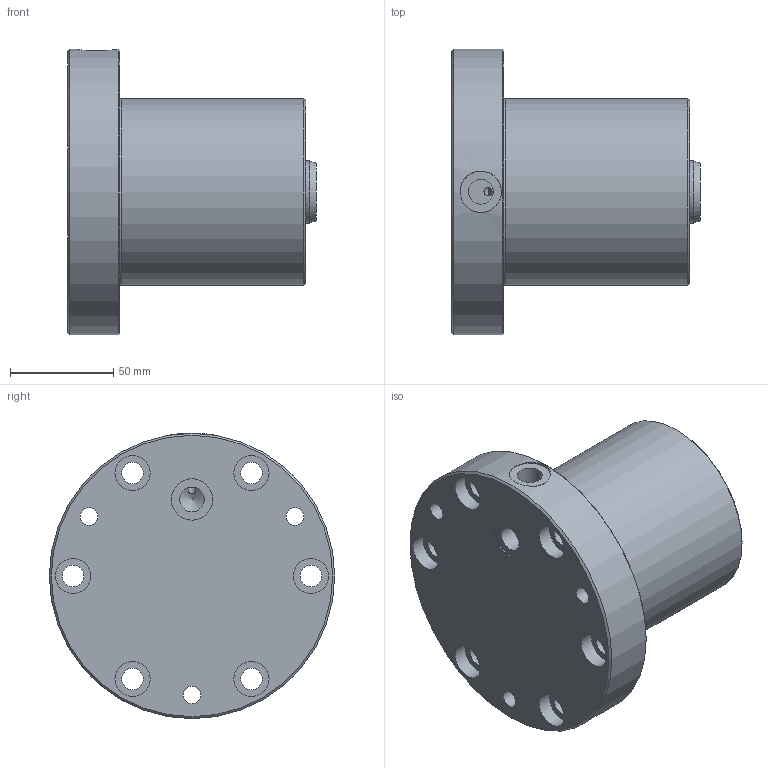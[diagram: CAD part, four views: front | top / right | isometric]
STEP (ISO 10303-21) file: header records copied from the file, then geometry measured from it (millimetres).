
FILE_DESCRIPTION( ( 'Unknown' ), '1' );
FILE_NAME( 'F:/JAKOB-STEP+IGES-Dateien/STEP-Dateien/ZDF/ZDFu 4000.stp', 'Unknown', ( 'Unknown' ), ( 'Unknown' ), 'XStep 1.0', 'Unknown', ' ' );
FILE_SCHEMA( ( 'CONFIG_CONTROL_DESIGN' ) );
Length unit declared in the file: millimetre
Products named in the file (1): 1
Bounding box: 120 x 138 x 138 mm (x, y, z)
Volume: 921804.4 mm3; surface area: 73995.1 mm2
Topology: 1 solids, 1 shells, 43 faces, 92 edges, 60 vertices
Faces by surface type: cylinder 23, plane 13, cone 6, torus 1
Full cylindrical faces by diameter (mm): 4 x1, 8.5 x3, 10.4 x6, 12 x2, 17 x6, 20 x2, 30 x1, 90 x1, 138 x1
Entity records: 1191 total; most frequent: CARTESIAN_POINT 302, DIRECTION 188, ORIENTED_EDGE 106, EDGE_LOOP 103, AXIS2_PLACEMENT_3D 94, FACE_OUTER_BOUND 67, VERTEX_POINT 53, EDGE_CURVE 53
